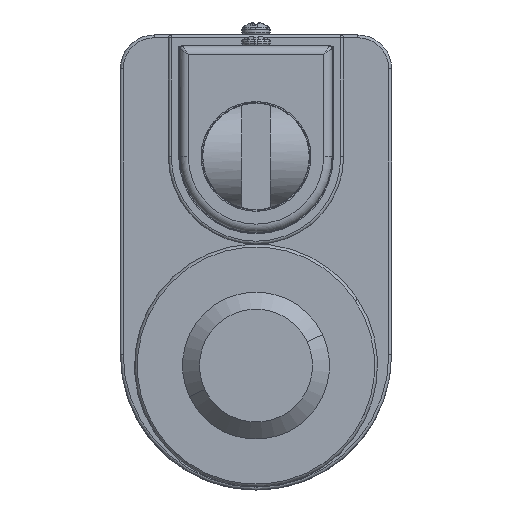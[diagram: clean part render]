
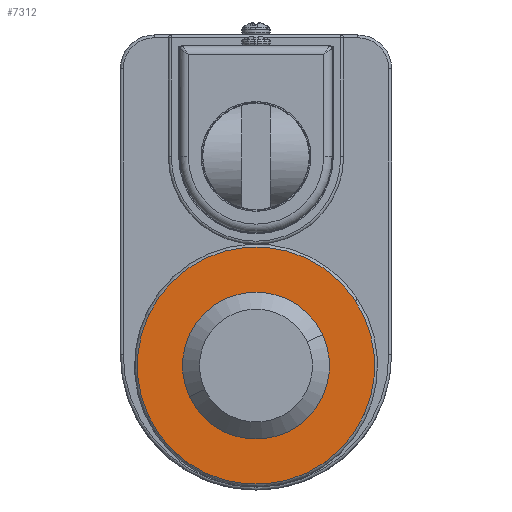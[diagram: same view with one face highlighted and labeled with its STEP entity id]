
A CAD part, left-side view. The second image highlights one B-rep face of the part: STEP entity #7312.
In plain terms, the highlighted planar face has unit normal (-1, 0, 0).
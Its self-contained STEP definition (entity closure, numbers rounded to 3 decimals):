
#6345 = EDGE_CURVE ( 'NONE', #6604, #6598, #17667, .T. ) ;
#6439 = EDGE_CURVE ( 'NONE', #6626, #6574, #17825, .T. ) ;
#6440 = ORIENTED_EDGE ( 'NONE', *, *, #6602, .F. ) ;
#6559 = ORIENTED_EDGE ( 'NONE', *, *, #6345, .F. ) ;
#6572 = EDGE_CURVE ( 'NONE', #6574, #6626, #17851, .T. ) ;
#6574 = VERTEX_POINT ( 'NONE', #17846 ) ;
#6598 = VERTEX_POINT ( 'NONE', #17918 ) ;
#6602 = EDGE_CURVE ( 'NONE', #6598, #6604, #17917, .T. ) ;
#6604 = VERTEX_POINT ( 'NONE', #17912 ) ;
#6626 = VERTEX_POINT ( 'NONE', #17950 ) ;
#7251 = ORIENTED_EDGE ( 'NONE', *, *, #6439, .T. ) ;
#7254 = EDGE_LOOP ( 'NONE', ( #6559, #6440 ) ) ;
#7312 = ADVANCED_FACE ( 'NONE', ( #18013, #18012 ), #18011, .F. ) ;
#7316 = EDGE_LOOP ( 'NONE', ( #7317, #7251 ) ) ;
#7317 = ORIENTED_EDGE ( 'NONE', *, *, #6572, .T. ) ;
#17663 = DIRECTION ( 'NONE',  ( 0., 0.906, -0.423 ) ) ;
#17664 = DIRECTION ( 'NONE',  ( 1., 0., 0. ) ) ;
#17665 = CARTESIAN_POINT ( 'NONE',  ( -82., 0., -37. ) ) ;
#17666 = AXIS2_PLACEMENT_3D ( 'NONE', #17665, #17664, #17663 ) ;
#17667 = CIRCLE ( 'NONE', #17666, 21. ) ;
#17821 = DIRECTION ( 'NONE',  ( 0., 0.906, -0.423 ) ) ;
#17822 = DIRECTION ( 'NONE',  ( 1., 0., 0. ) ) ;
#17823 = CARTESIAN_POINT ( 'NONE',  ( -82., 0., -37. ) ) ;
#17824 = AXIS2_PLACEMENT_3D ( 'NONE', #17823, #17822, #17821 ) ;
#17825 = CIRCLE ( 'NONE', #17824, 13. ) ;
#17846 = CARTESIAN_POINT ( 'NONE',  ( -82., 11.782, -42.494 ) ) ;
#17847 = DIRECTION ( 'NONE',  ( 0., 0.906, -0.423 ) ) ;
#17848 = DIRECTION ( 'NONE',  ( 1., 0., 0. ) ) ;
#17849 = CARTESIAN_POINT ( 'NONE',  ( -82., 0., -37. ) ) ;
#17850 = AXIS2_PLACEMENT_3D ( 'NONE', #17849, #17848, #17847 ) ;
#17851 = CIRCLE ( 'NONE', #17850, 13. ) ;
#17912 = CARTESIAN_POINT ( 'NONE',  ( -82., -19.032, -28.125 ) ) ;
#17913 = DIRECTION ( 'NONE',  ( 0., 0.906, -0.423 ) ) ;
#17914 = DIRECTION ( 'NONE',  ( 1., 0., 0. ) ) ;
#17915 = CARTESIAN_POINT ( 'NONE',  ( -82., 0., -37. ) ) ;
#17916 = AXIS2_PLACEMENT_3D ( 'NONE', #17915, #17914, #17913 ) ;
#17917 = CIRCLE ( 'NONE', #17916, 21. ) ;
#17918 = CARTESIAN_POINT ( 'NONE',  ( -82., 19.032, -45.875 ) ) ;
#17950 = CARTESIAN_POINT ( 'NONE',  ( -82., -11.782, -31.506 ) ) ;
#18006 = DIRECTION ( 'NONE',  ( 0., 0.906, -0.423 ) ) ;
#18007 = DIRECTION ( 'NONE',  ( 1., 0., 0. ) ) ;
#18008 = CARTESIAN_POINT ( 'NONE',  ( -82., 0., -37. ) ) ;
#18010 = AXIS2_PLACEMENT_3D ( 'NONE', #18008, #18007, #18006 ) ;
#18011 = PLANE ( 'NONE',  #18010 ) ;
#18012 = FACE_OUTER_BOUND ( 'NONE', #7254, .T. ) ;
#18013 = FACE_BOUND ( 'NONE', #7316, .T. ) ;
